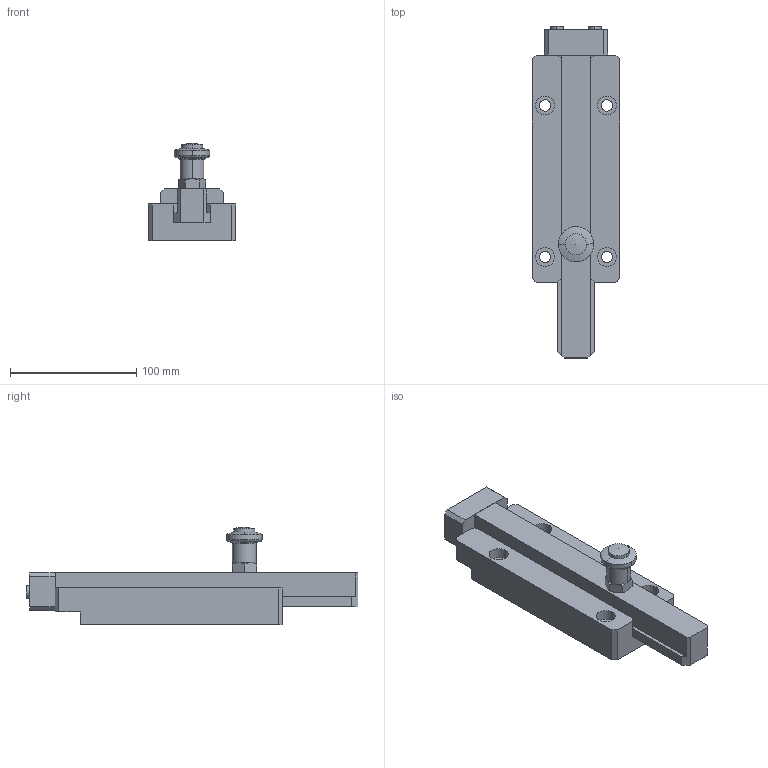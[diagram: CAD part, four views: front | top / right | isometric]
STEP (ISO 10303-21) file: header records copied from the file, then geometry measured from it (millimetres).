
FILE_DESCRIPTION (( 'STEP AP214' ), '1' );
FILE_NAME ('030100000001142.STEP', '2024-07-03T11:07:41', ( '' ), ( '' ), 'SwSTEP 2.0', 'SolidWorks 2023', '' );
FILE_SCHEMA (( 'AUTOMOTIVE_DESIGN' ));
Length unit declared in the file: millimetre
Products named in the file (7): 030100000001142; 020100000004560; 041200000000024; 041400000000034; 060100000000030; 020100000004749; 020100000004559
Assembly tree (8 placements, depth 2):
  030100000001142
    020100000004559
    020100000004560
    020100000004749
    041200000000024  x2
    041400000000034
    060100000000030  x2
Bounding box: 69 x 263 x 77 mm (x, y, z)
Volume: 458057.6 mm3; surface area: 101263.4 mm2
Topology: 9 solids, 9 shells, 256 faces, 590 edges, 372 vertices
Faces by surface type: plane 98, cylinder 96, cone 42, torus 18, sphere 2
Entity records: 6541 total; most frequent: DIRECTION 1174, CARTESIAN_POINT 1110, ORIENTED_EDGE 1016, EDGE_CURVE 508, AXIS2_PLACEMENT_3D 460, VERTEX_POINT 324, EDGE_LOOP 270, VECTOR 254
